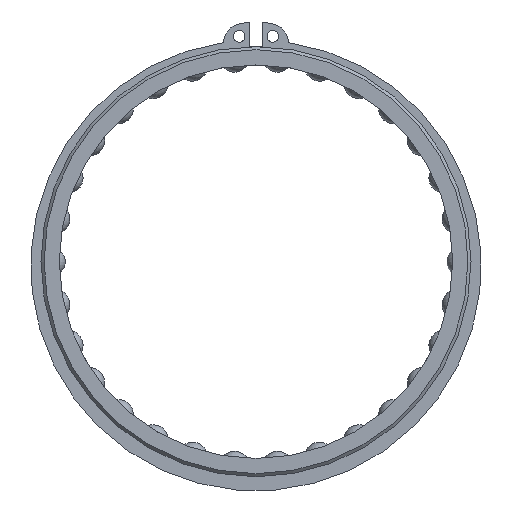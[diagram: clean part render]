
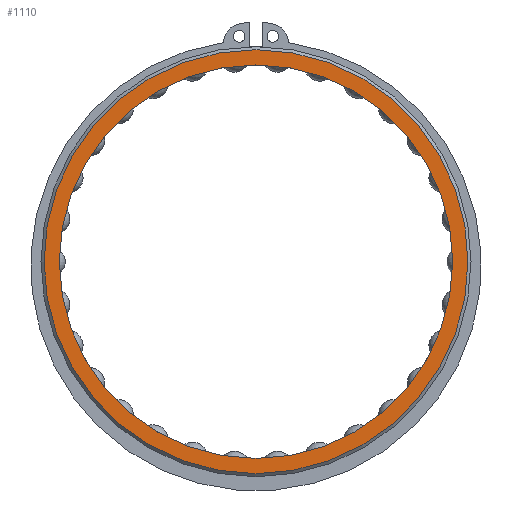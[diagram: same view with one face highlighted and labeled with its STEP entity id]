
A CAD part, left-side view. The second image highlights one B-rep face of the part: STEP entity #1110.
In plain terms, the highlighted planar face has unit normal (-1, 0, 0).
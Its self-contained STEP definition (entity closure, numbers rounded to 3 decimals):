
#78=FACE_BOUND('',#389,.T.);
#86=PLANE('',#1222);
#153=CIRCLE('',#1221,25.8);
#154=CIRCLE('',#1223,27.8);
#245=FACE_OUTER_BOUND('',#388,.T.);
#388=EDGE_LOOP('',(#835));
#389=EDGE_LOOP('',(#836));
#543=VERTEX_POINT('',#3928);
#544=VERTEX_POINT('',#3932);
#644=EDGE_CURVE('',#543,#543,#153,.T.);
#645=EDGE_CURVE('',#544,#544,#154,.T.);
#835=ORIENTED_EDGE('',*,*,#645,.F.);
#836=ORIENTED_EDGE('',*,*,#644,.T.);
#1110=ADVANCED_FACE('',(#245,#78),#86,.T.);
#1221=AXIS2_PLACEMENT_3D('',#3930,#1410,#1411);
#1222=AXIS2_PLACEMENT_3D('',#3931,#1412,#1413);
#1223=AXIS2_PLACEMENT_3D('',#3933,#1414,#1415);
#1410=DIRECTION('center_axis',(1.,0.,0.));
#1411=DIRECTION('ref_axis',(0.,0.,-1.));
#1412=DIRECTION('center_axis',(-1.,0.,0.));
#1413=DIRECTION('ref_axis',(0.,0.,1.));
#1414=DIRECTION('center_axis',(1.,0.,0.));
#1415=DIRECTION('ref_axis',(0.,0.,-1.));
#3928=CARTESIAN_POINT('',(0.,-25.8,0.));
#3930=CARTESIAN_POINT('Origin',(0.,0.,0.));
#3931=CARTESIAN_POINT('Origin',(0.,27.8,0.));
#3932=CARTESIAN_POINT('',(0.,-27.8,0.));
#3933=CARTESIAN_POINT('Origin',(0.,0.,0.));
